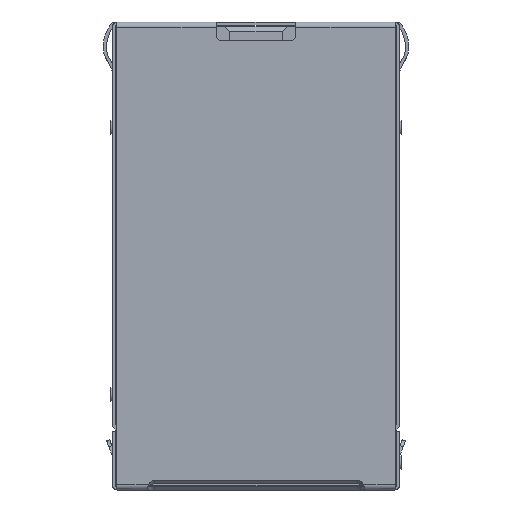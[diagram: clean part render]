
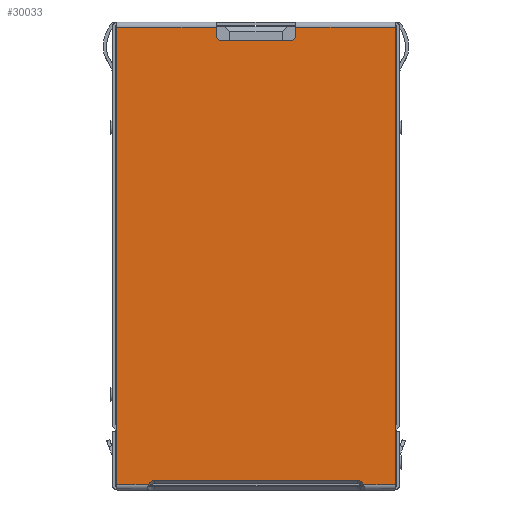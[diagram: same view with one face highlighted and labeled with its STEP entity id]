
A CAD part, front view. The second image highlights one B-rep face of the part: STEP entity #30033.
In plain terms, the highlighted planar face has unit normal (0, -1, 0) as drawn and (0, 0, 1) by its records, which use the part's own axes.
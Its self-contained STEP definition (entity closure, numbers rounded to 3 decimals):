
#23700=CARTESIAN_POINT('',(-13.7,6.439,12.5));
#23718=DIRECTION('',(0.,1.,0.));
#23719=VECTOR('',#23718,4.15);
#23720=CARTESIAN_POINT('',(12.9,-2.075,12.5));
#23721=LINE('',#23720,#23719);
#23722=DIRECTION('',(-1.,0.,0.));
#23723=VECTOR('',#23722,0.5);
#23724=CARTESIAN_POINT('',(13.7,-2.375,12.5));
#23725=LINE('',#23724,#23723);
#23726=DIRECTION('',(0.,1.,0.));
#23727=VECTOR('',#23726,5.975);
#23728=CARTESIAN_POINT('',(13.7,-8.35,12.5));
#23729=LINE('',#23728,#23727);
#23730=DIRECTION('',(1.,0.,0.));
#23731=VECTOR('',#23730,27.4);
#23732=CARTESIAN_POINT('',(-13.7,-8.35,12.5));
#23733=LINE('',#23732,#23731);
#23734=DIRECTION('',(0.,-1.,0.));
#23735=VECTOR('',#23734,1.911);
#23736=CARTESIAN_POINT('',(-13.7,-6.439,12.5));
#23737=LINE('',#23736,#23735);
#23738=CARTESIAN_POINT('',(-13.7,-6.439,12.5));
#23739=CARTESIAN_POINT('',(-13.622,-6.405,12.5));
#23740=CARTESIAN_POINT('',(-13.499,-6.314,12.5));
#23741=CARTESIAN_POINT('',(-13.434,-6.185,12.5));
#23742=CARTESIAN_POINT('',(-13.434,-6.1,12.5));
#23744=DIRECTION('',(0.,1.,0.));
#23745=VECTOR('',#23744,12.2);
#23746=CARTESIAN_POINT('',(-13.434,-6.1,12.5));
#23747=LINE('',#23746,#23745);
#23748=CARTESIAN_POINT('',(-13.434,6.1,12.5));
#23749=CARTESIAN_POINT('',(-13.434,6.185,12.5));
#23750=CARTESIAN_POINT('',(-13.499,6.314,12.5));
#23751=CARTESIAN_POINT('',(-13.622,6.405,12.5));
#23752=CARTESIAN_POINT('',(-13.7,6.439,12.5));
#23754=DIRECTION('',(0.,-1.,0.));
#23755=VECTOR('',#23754,1.911);
#23756=CARTESIAN_POINT('',(-13.7,8.35,12.5));
#23757=LINE('',#23756,#23755);
#23758=DIRECTION('',(1.,0.,0.));
#23759=VECTOR('',#23758,27.4);
#23760=CARTESIAN_POINT('',(-13.7,8.35,12.5));
#23761=LINE('',#23760,#23759);
#23762=DIRECTION('',(0.,1.,0.));
#23763=VECTOR('',#23762,5.975);
#23764=CARTESIAN_POINT('',(13.7,2.375,12.5));
#23765=LINE('',#23764,#23763);
#23766=DIRECTION('',(-1.,0.,0.));
#23767=VECTOR('',#23766,0.5);
#23768=CARTESIAN_POINT('',(13.7,2.375,12.5));
#23769=LINE('',#23768,#23767);
#23778=CARTESIAN_POINT('',(13.2,2.075,12.5));
#23779=DIRECTION('',(0.,0.,-1.));
#23780=DIRECTION('',(-1.,0.,0.));
#23781=AXIS2_PLACEMENT_3D('',#23778,#23779,#23780);
#24391=CARTESIAN_POINT('',(13.2,-2.075,12.5));
#24392=DIRECTION('',(0.,0.,-1.));
#24393=DIRECTION('',(0.,-1.,0.));
#24394=AXIS2_PLACEMENT_3D('',#24391,#24392,#24393);
#25136=CARTESIAN_POINT('',(-13.7,-6.439,12.5));
#26382=CARTESIAN_POINT('',(-13.434,-6.1,12.5));
#26383=CARTESIAN_POINT('',(-13.434,6.1,12.5));
#26384=VERTEX_POINT('',#26382);
#26385=VERTEX_POINT('',#26383);
#27074=VERTEX_POINT('',#23700);
#27078=CARTESIAN_POINT('',(-13.7,8.35,12.5));
#27079=VERTEX_POINT('',#27078);
#27091=VERTEX_POINT('',#25136);
#27092=CARTESIAN_POINT('',(-13.7,-8.35,12.5));
#27093=VERTEX_POINT('',#27092);
#27100=CARTESIAN_POINT('',(13.7,-8.35,12.5));
#27101=VERTEX_POINT('',#27100);
#27106=CARTESIAN_POINT('',(13.7,8.35,12.5));
#27107=VERTEX_POINT('',#27106);
#27109=CARTESIAN_POINT('',(13.7,2.375,12.5));
#27111=VERTEX_POINT('',#27109);
#27112=CARTESIAN_POINT('',(13.7,-2.375,12.5));
#27114=VERTEX_POINT('',#27112);
#27428=CARTESIAN_POINT('',(12.9,2.075,12.5));
#27430=VERTEX_POINT('',#27428);
#27432=CARTESIAN_POINT('',(13.2,2.375,12.5));
#27434=VERTEX_POINT('',#27432);
#27437=CARTESIAN_POINT('',(12.9,-2.075,12.5));
#27439=VERTEX_POINT('',#27437);
#27441=CARTESIAN_POINT('',(13.2,-2.375,12.5));
#27443=VERTEX_POINT('',#27441);
#30001=CARTESIAN_POINT('',(0.,0.,12.5));
#30002=DIRECTION('',(0.,0.,1.));
#30003=DIRECTION('',(1.,0.,0.));
#30004=AXIS2_PLACEMENT_3D('',#30001,#30002,#30003);
#30005=PLANE('',#30004);
#30007=ORIENTED_EDGE('',*,*,#30006,.F.);
#30009=ORIENTED_EDGE('',*,*,#30008,.F.);
#30011=ORIENTED_EDGE('',*,*,#30010,.F.);
#30013=ORIENTED_EDGE('',*,*,#30012,.F.);
#30014=ORIENTED_EDGE('',*,*,#29572,.F.);
#30016=ORIENTED_EDGE('',*,*,#30015,.F.);
#30018=ORIENTED_EDGE('',*,*,#30017,.T.);
#30020=ORIENTED_EDGE('',*,*,#30019,.T.);
#30021=ORIENTED_EDGE('',*,*,#29987,.T.);
#30022=ORIENTED_EDGE('',*,*,#29976,.F.);
#30024=ORIENTED_EDGE('',*,*,#30023,.T.);
#30026=ORIENTED_EDGE('',*,*,#30025,.F.);
#30028=ORIENTED_EDGE('',*,*,#30027,.T.);
#30030=ORIENTED_EDGE('',*,*,#30029,.F.);
#30031=EDGE_LOOP('',(#30007,#30009,#30011,#30013,#30014,#30016,#30018,#30020,
#30021,#30022,#30024,#30026,#30028,#30030));
#30032=FACE_OUTER_BOUND('',#30031,.F.);
#30033=ADVANCED_FACE('',(#30032),#30005,.T.);
#23743=B_SPLINE_CURVE_WITH_KNOTS('',3,(#23738,#23739,#23740,#23741,#23742),
.UNSPECIFIED.,.F.,.F.,(4,1,4),(0.,0.5,1.),.UNSPECIFIED.);
#23753=B_SPLINE_CURVE_WITH_KNOTS('',3,(#23748,#23749,#23750,#23751,#23752),
.UNSPECIFIED.,.F.,.F.,(4,1,4),(0.,0.5,1.),.UNSPECIFIED.);
#23782=CIRCLE('',#23781,0.3);
#24395=CIRCLE('',#24394,0.3);
#29572=EDGE_CURVE('',#27093,#27101,#23733,.T.);
#29976=EDGE_CURVE('',#27079,#27074,#23757,.T.);
#29987=EDGE_CURVE('',#26385,#27074,#23753,.T.);
#30006=EDGE_CURVE('',#27439,#27430,#23721,.T.);
#30008=EDGE_CURVE('',#27443,#27439,#24395,.T.);
#30010=EDGE_CURVE('',#27114,#27443,#23725,.T.);
#30012=EDGE_CURVE('',#27101,#27114,#23729,.T.);
#30015=EDGE_CURVE('',#27091,#27093,#23737,.T.);
#30017=EDGE_CURVE('',#27091,#26384,#23743,.T.);
#30019=EDGE_CURVE('',#26384,#26385,#23747,.T.);
#30023=EDGE_CURVE('',#27079,#27107,#23761,.T.);
#30025=EDGE_CURVE('',#27111,#27107,#23765,.T.);
#30027=EDGE_CURVE('',#27111,#27434,#23769,.T.);
#30029=EDGE_CURVE('',#27430,#27434,#23782,.T.);
